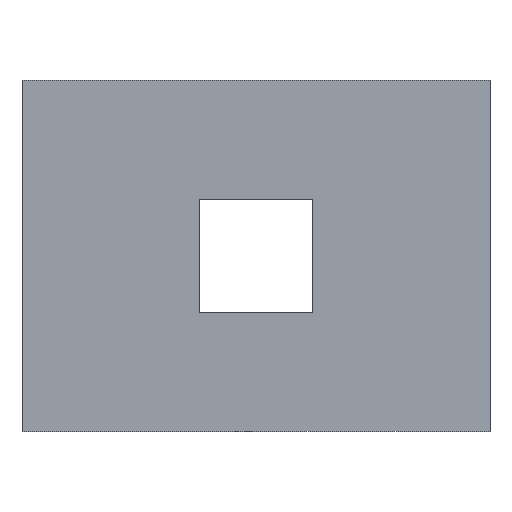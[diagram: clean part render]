
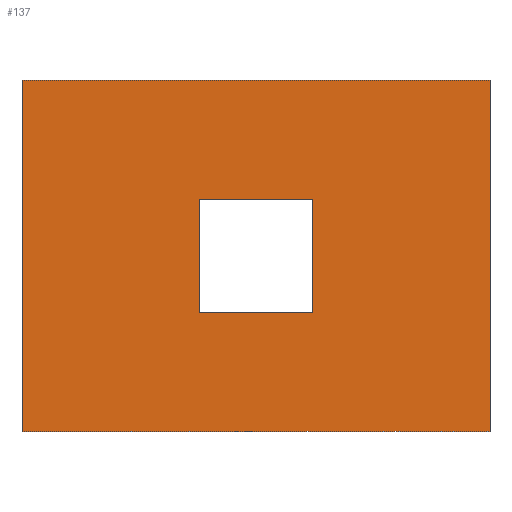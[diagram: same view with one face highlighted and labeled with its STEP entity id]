
A CAD part, front view. The second image highlights one B-rep face of the part: STEP entity #137.
In plain terms, the highlighted planar face has unit normal (0, -1, 0).
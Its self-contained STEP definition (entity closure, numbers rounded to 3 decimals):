
#21 = EDGE_CURVE('',#22,#24,#26,.T.);
#22 = VERTEX_POINT('',#23);
#23 = CARTESIAN_POINT('',(112.,3.2,66.5));
#24 = VERTEX_POINT('',#25);
#25 = CARTESIAN_POINT('',(112.,3.2,87.5));
#26 = SURFACE_CURVE('',#27,(#31,#43),.PCURVE_S1.);
#27 = LINE('',#28,#29);
#28 = CARTESIAN_POINT('',(112.,3.2,66.5));
#29 = VECTOR('',#30,1.);
#30 = DIRECTION('',(0.,0.,1.));
#31 = PCURVE('',#32,#37);
#32 = PLANE('',#33);
#33 = AXIS2_PLACEMENT_3D('',#34,#35,#36);
#34 = CARTESIAN_POINT('',(112.,3.2,66.5));
#35 = DIRECTION('',(1.,0.,0.));
#36 = DIRECTION('',(0.,0.,1.));
#37 = DEFINITIONAL_REPRESENTATION('',(#38),#42);
#38 = LINE('',#39,#40);
#39 = CARTESIAN_POINT('',(0.,0.));
#40 = VECTOR('',#41,1.);
#41 = DIRECTION('',(1.,0.));
#42 = ( GEOMETRIC_REPRESENTATION_CONTEXT(2) 
PARAMETRIC_REPRESENTATION_CONTEXT() REPRESENTATION_CONTEXT('2D SPACE',''
  ) );
#43 = PCURVE('',#44,#49);
#44 = PLANE('',#45);
#45 = AXIS2_PLACEMENT_3D('',#46,#47,#48);
#46 = CARTESIAN_POINT('',(112.,3.2,66.5));
#47 = DIRECTION('',(0.,1.,0.));
#48 = DIRECTION('',(0.,0.,1.));
#49 = DEFINITIONAL_REPRESENTATION('',(#50),#54);
#50 = LINE('',#51,#52);
#51 = CARTESIAN_POINT('',(0.,0.));
#52 = VECTOR('',#53,1.);
#53 = DIRECTION('',(1.,0.));
#54 = ( GEOMETRIC_REPRESENTATION_CONTEXT(2) 
PARAMETRIC_REPRESENTATION_CONTEXT() REPRESENTATION_CONTEXT('2D SPACE',''
  ) );
#72 = PLANE('',#73);
#73 = AXIS2_PLACEMENT_3D('',#74,#75,#76);
#74 = CARTESIAN_POINT('',(112.,3.2,66.5));
#75 = DIRECTION('',(0.,0.,1.));
#76 = DIRECTION('',(1.,0.,0.));
#126 = PLANE('',#127);
#127 = AXIS2_PLACEMENT_3D('',#128,#129,#130);
#128 = CARTESIAN_POINT('',(112.,3.2,87.5));
#129 = DIRECTION('',(0.,0.,1.));
#130 = DIRECTION('',(1.,0.,0.));
#137 = ADVANCED_FACE('',(#138,#213),#44,.F.);
#138 = FACE_BOUND('',#139,.F.);
#139 = EDGE_LOOP('',(#140,#163,#164,#187));
#140 = ORIENTED_EDGE('',*,*,#141,.F.);
#141 = EDGE_CURVE('',#22,#142,#144,.T.);
#142 = VERTEX_POINT('',#143);
#143 = CARTESIAN_POINT('',(140.,3.2,66.5));
#144 = SURFACE_CURVE('',#145,(#149,#156),.PCURVE_S1.);
#145 = LINE('',#146,#147);
#146 = CARTESIAN_POINT('',(112.,3.2,66.5));
#147 = VECTOR('',#148,1.);
#148 = DIRECTION('',(1.,0.,0.));
#149 = PCURVE('',#44,#150);
#150 = DEFINITIONAL_REPRESENTATION('',(#151),#155);
#151 = LINE('',#152,#153);
#152 = CARTESIAN_POINT('',(0.,0.));
#153 = VECTOR('',#154,1.);
#154 = DIRECTION('',(0.,1.));
#155 = ( GEOMETRIC_REPRESENTATION_CONTEXT(2) 
PARAMETRIC_REPRESENTATION_CONTEXT() REPRESENTATION_CONTEXT('2D SPACE',''
  ) );
#156 = PCURVE('',#72,#157);
#157 = DEFINITIONAL_REPRESENTATION('',(#158),#162);
#158 = LINE('',#159,#160);
#159 = CARTESIAN_POINT('',(0.,0.));
#160 = VECTOR('',#161,1.);
#161 = DIRECTION('',(1.,0.));
#162 = ( GEOMETRIC_REPRESENTATION_CONTEXT(2) 
PARAMETRIC_REPRESENTATION_CONTEXT() REPRESENTATION_CONTEXT('2D SPACE',''
  ) );
#163 = ORIENTED_EDGE('',*,*,#21,.T.);
#164 = ORIENTED_EDGE('',*,*,#165,.T.);
#165 = EDGE_CURVE('',#24,#166,#168,.T.);
#166 = VERTEX_POINT('',#167);
#167 = CARTESIAN_POINT('',(140.,3.2,87.5));
#168 = SURFACE_CURVE('',#169,(#173,#180),.PCURVE_S1.);
#169 = LINE('',#170,#171);
#170 = CARTESIAN_POINT('',(112.,3.2,87.5));
#171 = VECTOR('',#172,1.);
#172 = DIRECTION('',(1.,0.,0.));
#173 = PCURVE('',#44,#174);
#174 = DEFINITIONAL_REPRESENTATION('',(#175),#179);
#175 = LINE('',#176,#177);
#176 = CARTESIAN_POINT('',(21.,0.));
#177 = VECTOR('',#178,1.);
#178 = DIRECTION('',(0.,1.));
#179 = ( GEOMETRIC_REPRESENTATION_CONTEXT(2) 
PARAMETRIC_REPRESENTATION_CONTEXT() REPRESENTATION_CONTEXT('2D SPACE',''
  ) );
#180 = PCURVE('',#126,#181);
#181 = DEFINITIONAL_REPRESENTATION('',(#182),#186);
#182 = LINE('',#183,#184);
#183 = CARTESIAN_POINT('',(0.,0.));
#184 = VECTOR('',#185,1.);
#185 = DIRECTION('',(1.,0.));
#186 = ( GEOMETRIC_REPRESENTATION_CONTEXT(2) 
PARAMETRIC_REPRESENTATION_CONTEXT() REPRESENTATION_CONTEXT('2D SPACE',''
  ) );
#187 = ORIENTED_EDGE('',*,*,#188,.F.);
#188 = EDGE_CURVE('',#142,#166,#189,.T.);
#189 = SURFACE_CURVE('',#190,(#194,#201),.PCURVE_S1.);
#190 = LINE('',#191,#192);
#191 = CARTESIAN_POINT('',(140.,3.2,66.5));
#192 = VECTOR('',#193,1.);
#193 = DIRECTION('',(0.,0.,1.));
#194 = PCURVE('',#44,#195);
#195 = DEFINITIONAL_REPRESENTATION('',(#196),#200);
#196 = LINE('',#197,#198);
#197 = CARTESIAN_POINT('',(0.,28.));
#198 = VECTOR('',#199,1.);
#199 = DIRECTION('',(1.,0.));
#200 = ( GEOMETRIC_REPRESENTATION_CONTEXT(2) 
PARAMETRIC_REPRESENTATION_CONTEXT() REPRESENTATION_CONTEXT('2D SPACE',''
  ) );
#201 = PCURVE('',#202,#207);
#202 = PLANE('',#203);
#203 = AXIS2_PLACEMENT_3D('',#204,#205,#206);
#204 = CARTESIAN_POINT('',(140.,3.2,66.5));
#205 = DIRECTION('',(1.,0.,0.));
#206 = DIRECTION('',(0.,0.,1.));
#207 = DEFINITIONAL_REPRESENTATION('',(#208),#212);
#208 = LINE('',#209,#210);
#209 = CARTESIAN_POINT('',(0.,0.));
#210 = VECTOR('',#211,1.);
#211 = DIRECTION('',(1.,0.));
#212 = ( GEOMETRIC_REPRESENTATION_CONTEXT(2) 
PARAMETRIC_REPRESENTATION_CONTEXT() REPRESENTATION_CONTEXT('2D SPACE',''
  ) );
#213 = FACE_BOUND('',#214,.F.);
#214 = EDGE_LOOP('',(#215,#244,#271,#298));
#215 = ORIENTED_EDGE('',*,*,#216,.F.);
#216 = EDGE_CURVE('',#217,#219,#221,.T.);
#217 = VERTEX_POINT('',#218);
#218 = CARTESIAN_POINT('',(122.6,3.2,80.4));
#219 = VERTEX_POINT('',#220);
#220 = CARTESIAN_POINT('',(129.4,3.2,80.4));
#221 = SURFACE_CURVE('',#222,(#226,#232),.PCURVE_S1.);
#222 = LINE('',#223,#224);
#223 = CARTESIAN_POINT('',(117.3,3.2,80.4));
#224 = VECTOR('',#225,1.);
#225 = DIRECTION('',(1.,0.,0.));
#226 = PCURVE('',#44,#227);
#227 = DEFINITIONAL_REPRESENTATION('',(#228),#231);
#228 = B_SPLINE_CURVE_WITH_KNOTS('',1,(#229,#230),.UNSPECIFIED.,.F.,.F.,
  (2,2),(5.3,12.1),.PIECEWISE_BEZIER_KNOTS.);
#229 = CARTESIAN_POINT('',(13.9,10.6));
#230 = CARTESIAN_POINT('',(13.9,17.4));
#231 = ( GEOMETRIC_REPRESENTATION_CONTEXT(2) 
PARAMETRIC_REPRESENTATION_CONTEXT() REPRESENTATION_CONTEXT('2D SPACE',''
  ) );
#232 = PCURVE('',#233,#238);
#233 = PLANE('',#234);
#234 = AXIS2_PLACEMENT_3D('',#235,#236,#237);
#235 = CARTESIAN_POINT('',(122.6,3.1,80.4));
#236 = DIRECTION('',(0.,0.,1.));
#237 = DIRECTION('',(1.,0.,0.));
#238 = DEFINITIONAL_REPRESENTATION('',(#239),#243);
#239 = LINE('',#240,#241);
#240 = CARTESIAN_POINT('',(-5.3,0.1));
#241 = VECTOR('',#242,1.);
#242 = DIRECTION('',(1.,0.));
#243 = ( GEOMETRIC_REPRESENTATION_CONTEXT(2) 
PARAMETRIC_REPRESENTATION_CONTEXT() REPRESENTATION_CONTEXT('2D SPACE',''
  ) );
#244 = ORIENTED_EDGE('',*,*,#245,.T.);
#245 = EDGE_CURVE('',#217,#246,#248,.T.);
#246 = VERTEX_POINT('',#247);
#247 = CARTESIAN_POINT('',(122.6,3.2,73.6));
#248 = SURFACE_CURVE('',#249,(#253,#259),.PCURVE_S1.);
#249 = LINE('',#250,#251);
#250 = CARTESIAN_POINT('',(122.6,3.2,70.05));
#251 = VECTOR('',#252,1.);
#252 = DIRECTION('',(0.,0.,-1.));
#253 = PCURVE('',#44,#254);
#254 = DEFINITIONAL_REPRESENTATION('',(#255),#258);
#255 = B_SPLINE_CURVE_WITH_KNOTS('',1,(#256,#257),.UNSPECIFIED.,.F.,.F.,
  (2,2),(-10.35,-3.55),.PIECEWISE_BEZIER_KNOTS.);
#256 = CARTESIAN_POINT('',(13.9,10.6));
#257 = CARTESIAN_POINT('',(7.1,10.6));
#258 = ( GEOMETRIC_REPRESENTATION_CONTEXT(2) 
PARAMETRIC_REPRESENTATION_CONTEXT() REPRESENTATION_CONTEXT('2D SPACE',''
  ) );
#259 = PCURVE('',#260,#265);
#260 = PLANE('',#261);
#261 = AXIS2_PLACEMENT_3D('',#262,#263,#264);
#262 = CARTESIAN_POINT('',(122.6,3.1,73.6));
#263 = DIRECTION('',(1.,0.,0.));
#264 = DIRECTION('',(0.,0.,1.));
#265 = DEFINITIONAL_REPRESENTATION('',(#266),#270);
#266 = LINE('',#267,#268);
#267 = CARTESIAN_POINT('',(-3.55,-0.1));
#268 = VECTOR('',#269,1.);
#269 = DIRECTION('',(-1.,0.));
#270 = ( GEOMETRIC_REPRESENTATION_CONTEXT(2) 
PARAMETRIC_REPRESENTATION_CONTEXT() REPRESENTATION_CONTEXT('2D SPACE',''
  ) );
#271 = ORIENTED_EDGE('',*,*,#272,.T.);
#272 = EDGE_CURVE('',#246,#273,#275,.T.);
#273 = VERTEX_POINT('',#274);
#274 = CARTESIAN_POINT('',(129.4,3.2,73.6));
#275 = SURFACE_CURVE('',#276,(#280,#286),.PCURVE_S1.);
#276 = LINE('',#277,#278);
#277 = CARTESIAN_POINT('',(117.3,3.2,73.6));
#278 = VECTOR('',#279,1.);
#279 = DIRECTION('',(1.,0.,0.));
#280 = PCURVE('',#44,#281);
#281 = DEFINITIONAL_REPRESENTATION('',(#282),#285);
#282 = B_SPLINE_CURVE_WITH_KNOTS('',1,(#283,#284),.UNSPECIFIED.,.F.,.F.,
  (2,2),(5.3,12.1),.PIECEWISE_BEZIER_KNOTS.);
#283 = CARTESIAN_POINT('',(7.1,10.6));
#284 = CARTESIAN_POINT('',(7.1,17.4));
#285 = ( GEOMETRIC_REPRESENTATION_CONTEXT(2) 
PARAMETRIC_REPRESENTATION_CONTEXT() REPRESENTATION_CONTEXT('2D SPACE',''
  ) );
#286 = PCURVE('',#287,#292);
#287 = PLANE('',#288);
#288 = AXIS2_PLACEMENT_3D('',#289,#290,#291);
#289 = CARTESIAN_POINT('',(122.6,3.1,73.6));
#290 = DIRECTION('',(0.,0.,1.));
#291 = DIRECTION('',(1.,0.,0.));
#292 = DEFINITIONAL_REPRESENTATION('',(#293),#297);
#293 = LINE('',#294,#295);
#294 = CARTESIAN_POINT('',(-5.3,0.1));
#295 = VECTOR('',#296,1.);
#296 = DIRECTION('',(1.,0.));
#297 = ( GEOMETRIC_REPRESENTATION_CONTEXT(2) 
PARAMETRIC_REPRESENTATION_CONTEXT() REPRESENTATION_CONTEXT('2D SPACE',''
  ) );
#298 = ORIENTED_EDGE('',*,*,#299,.F.);
#299 = EDGE_CURVE('',#219,#273,#300,.T.);
#300 = SURFACE_CURVE('',#301,(#305,#311),.PCURVE_S1.);
#301 = LINE('',#302,#303);
#302 = CARTESIAN_POINT('',(129.4,3.2,70.05));
#303 = VECTOR('',#304,1.);
#304 = DIRECTION('',(0.,0.,-1.));
#305 = PCURVE('',#44,#306);
#306 = DEFINITIONAL_REPRESENTATION('',(#307),#310);
#307 = B_SPLINE_CURVE_WITH_KNOTS('',1,(#308,#309),.UNSPECIFIED.,.F.,.F.,
  (2,2),(-10.35,-3.55),.PIECEWISE_BEZIER_KNOTS.);
#308 = CARTESIAN_POINT('',(13.9,17.4));
#309 = CARTESIAN_POINT('',(7.1,17.4));
#310 = ( GEOMETRIC_REPRESENTATION_CONTEXT(2) 
PARAMETRIC_REPRESENTATION_CONTEXT() REPRESENTATION_CONTEXT('2D SPACE',''
  ) );
#311 = PCURVE('',#312,#317);
#312 = PLANE('',#313);
#313 = AXIS2_PLACEMENT_3D('',#314,#315,#316);
#314 = CARTESIAN_POINT('',(129.4,3.1,73.6));
#315 = DIRECTION('',(1.,0.,0.));
#316 = DIRECTION('',(0.,0.,1.));
#317 = DEFINITIONAL_REPRESENTATION('',(#318),#322);
#318 = LINE('',#319,#320);
#319 = CARTESIAN_POINT('',(-3.55,-0.1));
#320 = VECTOR('',#321,1.);
#321 = DIRECTION('',(-1.,0.));
#322 = ( GEOMETRIC_REPRESENTATION_CONTEXT(2) 
PARAMETRIC_REPRESENTATION_CONTEXT() REPRESENTATION_CONTEXT('2D SPACE',''
  ) );
